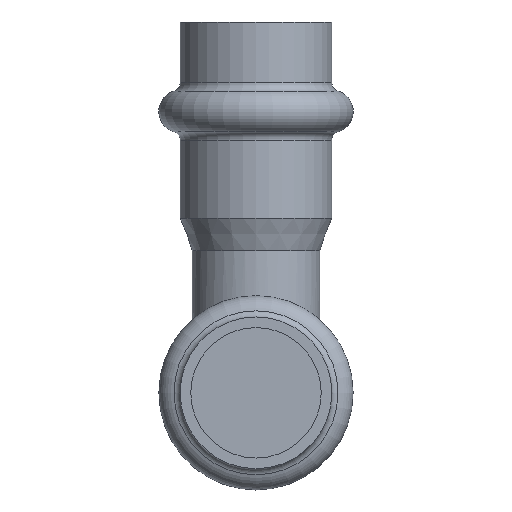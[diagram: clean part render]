
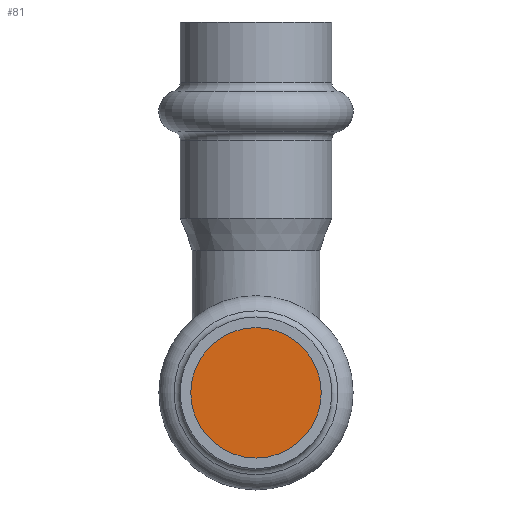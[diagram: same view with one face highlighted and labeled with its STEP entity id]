
A CAD part, front view. The second image highlights one B-rep face of the part: STEP entity #81.
In plain terms, the highlighted planar face has unit normal (0, -1, 0).
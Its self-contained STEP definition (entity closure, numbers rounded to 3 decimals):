
#81=ADVANCED_FACE('',(#332),#334,.T.);
#332=FACE_BOUND('',#333,.T.);
#333=EDGE_LOOP('',(#400));
#334=PLANE('',#335);
#335=AXIS2_PLACEMENT_3D('',#336,#337,#338);
#336=CARTESIAN_POINT('',(0.,-34.354,0.));
#337=DIRECTION('',(0.,-1.,0.));
#338=DIRECTION('',(0.,0.,-1.));
#400=ORIENTED_EDGE('',*,*,#431,.T.);
#431=EDGE_CURVE('',#492,#492,#493,.F.);
#492=VERTEX_POINT('',#644);
#493=CIRCLE('',#645,7.65);
#644=CARTESIAN_POINT('',(0.,-34.354,7.65));
#645=AXIS2_PLACEMENT_3D('',#646,#647,#648);
#646=CARTESIAN_POINT('',(0.,-34.354,0.));
#647=DIRECTION('',(0.,1.,0.));
#648=DIRECTION('',(0.,0.,1.));
